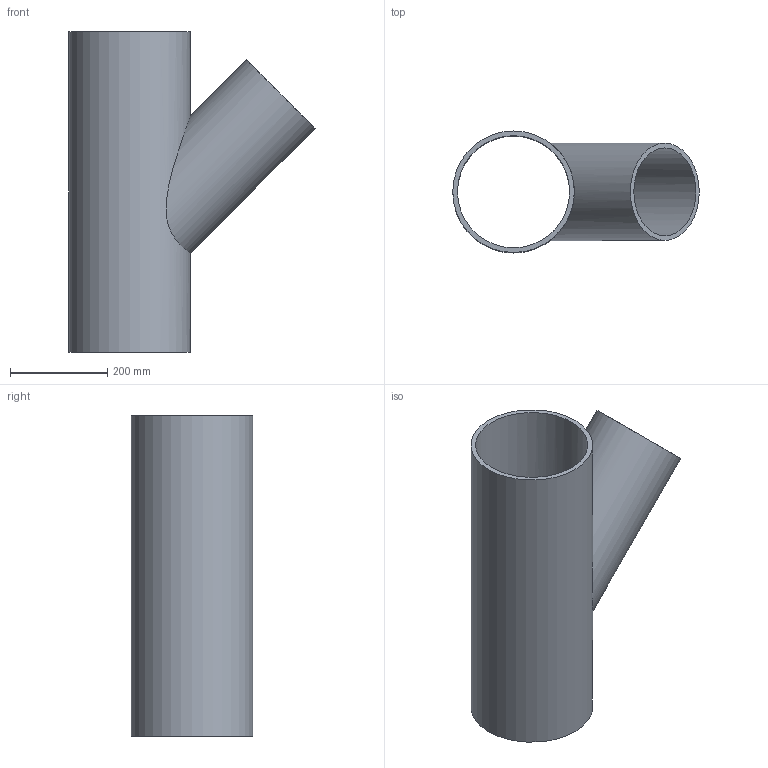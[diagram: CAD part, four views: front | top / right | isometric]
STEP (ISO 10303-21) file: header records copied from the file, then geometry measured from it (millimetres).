
FILE_DESCRIPTION(/* description */ (''),/* implementation_level */ '2;1');
FILE_NAME(/* name */ 'C:\Planerdaten\Export PLA\PRO_101557\stp\371146.stp',/* time_stamp */ '2021-09-30T15:09:32+02:00',/* author */ ('JANAN'),/* organization */ (''),/* preprocessor_version */ 'ST-DEVELOPER v16.13',/* originating_system */ 'Autodesk Inventor 2018',/* authorisation */ '');
FILE_SCHEMA (('AUTOMOTIVE_DESIGN { 1 0 10303 214 3 1 1 }'));
Length unit declared in the file: millimetre
Products named in the file (1): tmp87E3.tmp
Bounding box: 506.84 x 250 x 660 mm (x, y, z)
Volume: 6138994 mm3; surface area: 1287247.3 mm2
Topology: 1 solids, 1 shells, 7 faces, 17 edges, 12 vertices
Faces by surface type: cylinder 4, plane 3
Full cylindrical faces by diameter (mm): 180.6 x1, 200 x1, 230.6 x1, 250 x1
Entity records: 390 total; most frequent: CARTESIAN_POINT 212, DIRECTION 28, EDGE_LOOP 16, ORIENTED_EDGE 16, AXIS2_PLACEMENT_3D 14, FACE_BOUND 9, VERTEX_POINT 8, EDGE_CURVE 8
